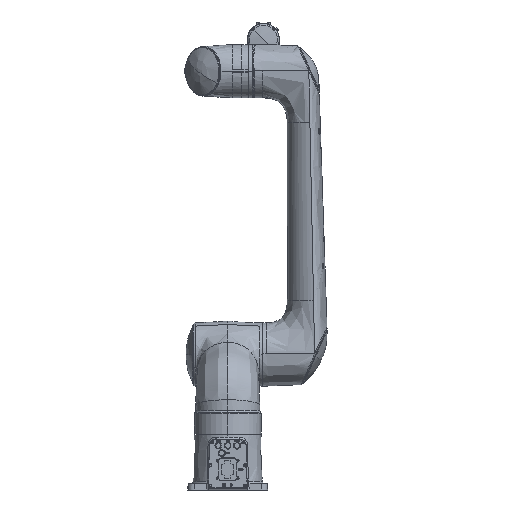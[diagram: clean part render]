
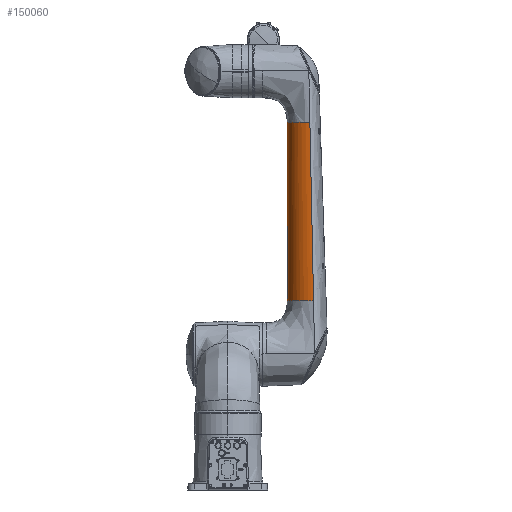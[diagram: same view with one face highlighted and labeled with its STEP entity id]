
A CAD part, left-side view. The second image highlights one B-rep face of the part: STEP entity #150060.
In plain terms, the highlighted free-form (B-spline) face has degree [3, 1] with [16, 2] control points.
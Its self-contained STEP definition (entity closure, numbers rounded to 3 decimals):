
#1797 = CARTESIAN_POINT ( 'NONE',  ( 167.264, -170.025, 1037.859 ) ) ;
#8851 = CARTESIAN_POINT ( 'NONE',  ( 124.449, -191.317, 1037.859 ) ) ;
#10010 = CARTESIAN_POINT ( 'NONE',  ( 118.691, -193.415, 534. ) ) ;
#11189 = CARTESIAN_POINT ( 'NONE',  ( 154.305, -172.467, 534. ) ) ;
#16390 = CARTESIAN_POINT ( 'NONE',  ( 176.355, -168.422, 1037.859 ) ) ;
#16846 = CARTESIAN_POINT ( 'NONE',  ( 96.399, -228.651, 534. ) ) ;
#18032 = CARTESIAN_POINT ( 'NONE',  ( 101.933, -215.746, 534. ) ) ;
#21642 = CARTESIAN_POINT ( 'NONE',  ( 180., -168.137, 534. ) ) ;
#28233 = FACE_OUTER_BOUND ( 'NONE', #119876, .T. ) ;
#29413 = CARTESIAN_POINT ( 'NONE',  ( 168.938, -169.692, 534. ) ) ;
#33869 = CARTESIAN_POINT ( 'NONE',  ( 143.604, -177.52, 1037.859 ) ) ;
#36972 = CARTESIAN_POINT ( 'NONE',  ( 180., -167.779, 1037.859 ) ) ;
#47600 = CARTESIAN_POINT ( 'NONE',  ( 154.305, -172.467, 534. ) ) ;
#52057 = CARTESIAN_POINT ( 'NONE',  ( 171.131, -169.384, 534. ) ) ;
#57557 = CARTESIAN_POINT ( 'NONE',  ( 110.254, -209.999, 1037.859 ) ) ;
#60880 = ORIENTED_EDGE ( 'NONE', *, *, #77794, .T. ) ;
#64868 = B_SPLINE_CURVE_WITH_KNOTS ( 'NONE', 3,
 ( #166573, #144813, #221142, #57557, #92670, #165351, #239277, #205351, #73308, #222342, #1797, #218732, #147220, #16390, #149610, #36972 ),
 .UNSPECIFIED., .F., .F.,
 ( 4, 1, 1, 1, 1, 1, 1, 1, 2, 1, 1, 1, 4 ),
 ( 0., 0.111, 0.221, 0.332, 0.443, 0.553, 0.664, 0.775, 0.886, 0.914, 0.943, 0.971, 1. ),
 .UNSPECIFIED. ) ;
#66946 = CARTESIAN_POINT ( 'NONE',  ( 163.258, -170.49, 534. ) ) ;
#72561 = CARTESIAN_POINT ( 'NONE',  ( 129.455, -184.549, 534. ) ) ;
#73308 = CARTESIAN_POINT ( 'NONE',  ( 154.576, -172.877, 1037.859 ) ) ;
#73778 = CARTESIAN_POINT ( 'NONE',  ( 171.131, -169.384, 534. ) ) ;
#77794 = EDGE_CURVE ( 'NONE', #171821, #151951, #213744, .T. ) ;
#80836 = VERTEX_POINT ( 'NONE', #184527 ) ;
#81554 = CARTESIAN_POINT ( 'NONE',  ( 102.421, -231.998, 1037.859 ) ) ;
#82722 = CARTESIAN_POINT ( 'NONE',  ( 129.455, -184.549, 534. ) ) ;
#83901 = CARTESIAN_POINT ( 'NONE',  ( 154.576, -172.877, 1037.859 ) ) ;
#85082 = CARTESIAN_POINT ( 'NONE',  ( 94.12, -237.738, 534. ) ) ;
#91919 = CARTESIAN_POINT ( 'NONE',  ( 163.258, -170.49, 534. ) ) ;
#92670 = CARTESIAN_POINT ( 'NONE',  ( 116.655, -200.145, 1037.859 ) ) ;
#98528 = VECTOR ( 'NONE', #203279, 1000. ) ;
#102104 = CARTESIAN_POINT ( 'NONE',  ( 101.933, -215.746, 534. ) ) ;
#103259 = CARTESIAN_POINT ( 'NONE',  ( 177.125, -168.541, 534. ) ) ;
#103293 = CARTESIAN_POINT ( 'NONE',  ( 169.38, -169.652, 1037.859 ) ) ;
#107759 = CARTESIAN_POINT ( 'NONE',  ( 176.355, -168.422, 1037.859 ) ) ;
#108919 = CARTESIAN_POINT ( 'NONE',  ( 118.691, -193.415, 534. ) ) ;
#117631 = ORIENTED_EDGE ( 'NONE', *, *, #153962, .T. ) ;
#119876 = EDGE_LOOP ( 'NONE', ( #146617, #187071, #60880, #117631 ) ) ;
#121486 = CARTESIAN_POINT ( 'NONE',  ( 162.313, -170.898, 1037.859 ) ) ;
#124753 = CARTESIAN_POINT ( 'NONE',  ( 93.351, -242.342, 534. ) ) ;
#125898 = CARTESIAN_POINT ( 'NONE',  ( 174.192, -168.953, 534. ) ) ;
#125934 = CARTESIAN_POINT ( 'NONE',  ( 133.497, -183.721, 1037.859 ) ) ;
#137270 = CARTESIAN_POINT ( 'NONE',  ( 116.655, -200.145, 1037.859 ) ) ;
#139653 = CARTESIAN_POINT ( 'NONE',  ( 94.12, -237.738, 534. ) ) ;
#140844 = CARTESIAN_POINT ( 'NONE',  ( 93.349, -242.342, 534. ) ) ;
#144813 = CARTESIAN_POINT ( 'NONE',  ( 103.221, -228.183, 1037.859 ) ) ;
#146471 = CARTESIAN_POINT ( 'NONE',  ( 179.042, -168.272, 534. ) ) ;
#146617 = ORIENTED_EDGE ( 'NONE', *, *, #235602, .T. ) ;
#147220 = CARTESIAN_POINT ( 'NONE',  ( 172.78, -169.052, 1037.859 ) ) ;
#147577 = CARTESIAN_POINT ( 'NONE',  ( 180., -167.958, 785.93 ) ) ;
#147690 = CARTESIAN_POINT ( 'NONE',  ( 93.351, -242.342, 534. ) ) ;
#149610 = CARTESIAN_POINT ( 'NONE',  ( 178.789, -167.993, 1037.859 ) ) ;
#150060 = ADVANCED_FACE ( 'NONE', ( #28233 ), #150176, .T. ) ;
#150176 = B_SPLINE_SURFACE_WITH_KNOTS ( 'NONE', 3, 1, ( 
 ( #81554, #140844 ),
 ( #219220, #139653 ),
 ( #155457, #213569 ),
 ( #237390, #102104 ),
 ( #137270, #175994 ),
 ( #8851, #10010 ),
 ( #125934, #82722 ),
 ( #33869, #231741 ),
 ( #83901, #47600 ),
 ( #121486, #66946 ),
 ( #195371, #29413 ),
 ( #103293, #52057 ),
 ( #158993, #199829 ),
 ( #107759, #181661 ),
 ( #151293, #164647 ),
 ( #167079, #21642 ) ),
 .UNSPECIFIED., .F., .F., .F.,
 ( 4, 1, 1, 1, 1, 1, 1, 1, 2, 1, 1, 1, 4 ),
 ( 2, 2 ),
 ( 0., 0.111, 0.221, 0.332, 0.443, 0.553, 0.664, 0.775, 0.886, 0.914, 0.943, 0.971, 1. ),
 ( 0., 1. ),
 .UNSPECIFIED. ) ;
#151293 = CARTESIAN_POINT ( 'NONE',  ( 178.789, -167.993, 1037.859 ) ) ;
#151951 = VERTEX_POINT ( 'NONE', #124753 ) ;
#153962 = EDGE_CURVE ( 'NONE', #151951, #219630, #194370, .T. ) ;
#155457 = CARTESIAN_POINT ( 'NONE',  ( 105.386, -220.674, 1037.859 ) ) ;
#158993 = CARTESIAN_POINT ( 'NONE',  ( 172.78, -169.052, 1037.859 ) ) ;
#160615 = CARTESIAN_POINT ( 'NONE',  ( 102.434, -231.996, 1037.859 ) ) ;
#164607 = CARTESIAN_POINT ( 'NONE',  ( 180., -168.137, 534. ) ) ;
#164647 = CARTESIAN_POINT ( 'NONE',  ( 179.042, -168.272, 534. ) ) ;
#165351 = CARTESIAN_POINT ( 'NONE',  ( 124.449, -191.317, 1037.859 ) ) ;
#166573 = CARTESIAN_POINT ( 'NONE',  ( 102.434, -231.996, 1037.859 ) ) ;
#166926 = LINE ( 'NONE', #147577, #98528 ) ;
#167079 = CARTESIAN_POINT ( 'NONE',  ( 180., -167.779, 1037.859 ) ) ;
#170584 = CARTESIAN_POINT ( 'NONE',  ( 102.434, -231.996, 1037.859 ) ) ;
#171821 = VERTEX_POINT ( 'NONE', #187669 ) ;
#175994 = CARTESIAN_POINT ( 'NONE',  ( 109.433, -203.9, 534. ) ) ;
#181661 = CARTESIAN_POINT ( 'NONE',  ( 177.125, -168.541, 534. ) ) ;
#184010 = CARTESIAN_POINT ( 'NONE',  ( 109.433, -203.9, 534. ) ) ;
#184527 = CARTESIAN_POINT ( 'NONE',  ( 180., -167.779, 1037.859 ) ) ;
#187071 = ORIENTED_EDGE ( 'NONE', *, *, #228618, .T. ) ;
#187669 = CARTESIAN_POINT ( 'NONE',  ( 180., -168.137, 534. ) ) ;
#194370 = B_SPLINE_CURVE_WITH_KNOTS ( 'NONE', 1,
 ( #236960, #160615 ),
 .UNSPECIFIED., .F., .F.,
 ( 2, 2 ),
 ( 0., 1. ),
 .UNSPECIFIED. ) ;
#195371 = CARTESIAN_POINT ( 'NONE',  ( 167.264, -170.025, 1037.859 ) ) ;
#199829 = CARTESIAN_POINT ( 'NONE',  ( 174.192, -168.953, 534. ) ) ;
#203279 = DIRECTION ( 'NONE',  ( 0., -0.001, -1. ) ) ;
#205351 = CARTESIAN_POINT ( 'NONE',  ( 143.604, -177.52, 1037.859 ) ) ;
#213569 = CARTESIAN_POINT ( 'NONE',  ( 96.399, -228.651, 534. ) ) ;
#213744 = B_SPLINE_CURVE_WITH_KNOTS ( 'NONE', 3,
 ( #164607, #146471, #103259, #125898, #73778, #237355, #91919, #11189, #236178, #72561, #108919, #184010, #18032, #16846, #85082, #147690 ),
 .UNSPECIFIED., .F., .F.,
 ( 4, 1, 1, 1, 2, 1, 1, 1, 1, 1, 1, 1, 4 ),
 ( 0., 0.029, 0.057, 0.086, 0.114, 0.225, 0.336, 0.447, 0.557, 0.668, 0.779, 0.889, 1. ),
 .UNSPECIFIED. ) ;
#218732 = CARTESIAN_POINT ( 'NONE',  ( 169.38, -169.652, 1037.859 ) ) ;
#219220 = CARTESIAN_POINT ( 'NONE',  ( 103.221, -228.183, 1037.859 ) ) ;
#219630 = VERTEX_POINT ( 'NONE', #170584 ) ;
#221142 = CARTESIAN_POINT ( 'NONE',  ( 105.386, -220.674, 1037.859 ) ) ;
#222342 = CARTESIAN_POINT ( 'NONE',  ( 162.313, -170.898, 1037.859 ) ) ;
#228618 = EDGE_CURVE ( 'NONE', #80836, #171821, #166926, .T. ) ;
#231741 = CARTESIAN_POINT ( 'NONE',  ( 141.433, -177.515, 534. ) ) ;
#235602 = EDGE_CURVE ( 'NONE', #219630, #80836, #64868, .T. ) ;
#236178 = CARTESIAN_POINT ( 'NONE',  ( 141.433, -177.515, 534. ) ) ;
#236960 = CARTESIAN_POINT ( 'NONE',  ( 93.351, -242.342, 534. ) ) ;
#237355 = CARTESIAN_POINT ( 'NONE',  ( 168.938, -169.692, 534. ) ) ;
#237390 = CARTESIAN_POINT ( 'NONE',  ( 110.254, -209.999, 1037.859 ) ) ;
#239277 = CARTESIAN_POINT ( 'NONE',  ( 133.497, -183.721, 1037.859 ) ) ;
